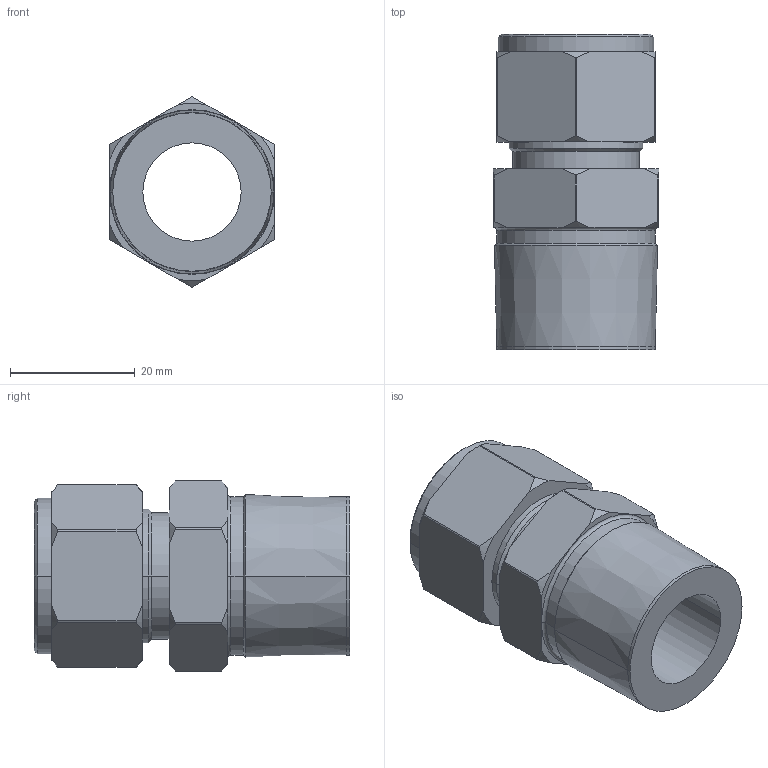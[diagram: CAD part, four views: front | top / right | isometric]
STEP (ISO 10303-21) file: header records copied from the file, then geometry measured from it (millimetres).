
FILE_DESCRIPTION (( 'STEP AP203' ), '1' );
FILE_NAME ('TC-R16-SS.step', '2018-01-03T15:01:46', ( '' ), ( '' ), 'SwSTEP 2.0', 'SolidWorks 2015', '' );
FILE_SCHEMA (( 'CONFIG_CONTROL_DESIGN' ));
Length unit declared in the file: millimetre
Products named in the file (2): TC-R16-SS
Bounding box: 26.52 x 50.55 x 30.48 mm (x, y, z)
Volume: 16911 mm3; surface area: 7927.1 mm2
Topology: 1 solids, 1 shells, 76 faces, 196 edges, 126 vertices
Faces by surface type: cone 32, cylinder 24, plane 18, torus 2
Entity records: 2439 total; most frequent: CARTESIAN_POINT 496, ORIENTED_EDGE 392, DIRECTION 384, EDGE_CURVE 196, AXIS2_PLACEMENT_3D 158, VERTEX_POINT 126, EDGE_LOOP 82, CIRCLE 80
